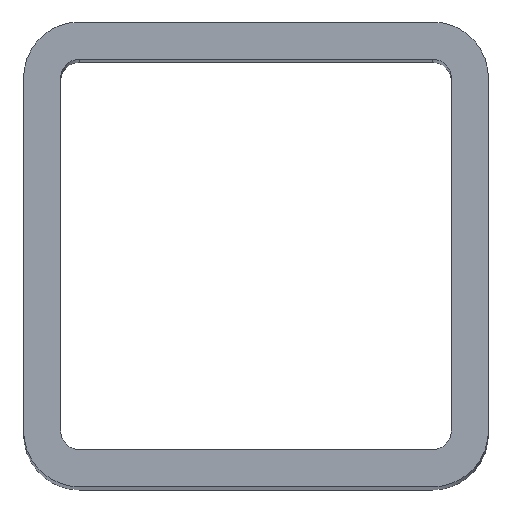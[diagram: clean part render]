
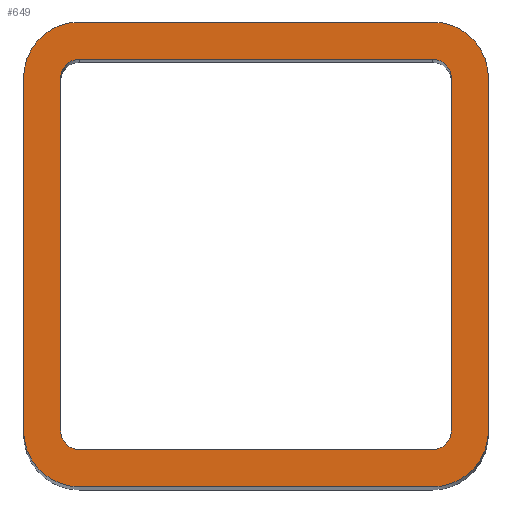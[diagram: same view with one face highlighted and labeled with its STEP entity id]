
A CAD part, top view. The second image highlights one B-rep face of the part: STEP entity #649.
In plain terms, the highlighted planar face has unit normal (0, 0, 1).
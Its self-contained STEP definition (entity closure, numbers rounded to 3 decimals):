
#3 = AXIS2_PLACEMENT_3D ( 'NONE', #189, #29, #535 ) ;
#4 = LINE ( 'NONE', #456, #489 ) ;
#5 = VERTEX_POINT ( 'NONE', #138 ) ;
#12 = ORIENTED_EDGE ( 'NONE', *, *, #607, .T. ) ;
#16 = EDGE_CURVE ( 'NONE', #264, #196, #422, .T. ) ;
#18 = DIRECTION ( 'NONE',  ( 1., 0., 0. ) ) ;
#21 = DIRECTION ( 'NONE',  ( 0., 0., 1. ) ) ;
#26 = CARTESIAN_POINT ( 'NONE',  ( 12.484, 9.516, 100. ) ) ;
#29 = DIRECTION ( 'NONE',  ( 0., 0., 1. ) ) ;
#37 = CARTESIAN_POINT ( 'NONE',  ( 9.484, 9.516, 100. ) ) ;
#38 = DIRECTION ( 'NONE',  ( -1., 0., 0. ) ) ;
#39 = DIRECTION ( 'NONE',  ( 0., 0., 1. ) ) ;
#46 = FACE_OUTER_BOUND ( 'NONE', #433, .T. ) ;
#55 = AXIS2_PLACEMENT_3D ( 'NONE', #319, #21, #275 ) ;
#58 = VECTOR ( 'NONE', #418, 1000. ) ;
#60 = ORIENTED_EDGE ( 'NONE', *, *, #251, .F. ) ;
#68 = VERTEX_POINT ( 'NONE', #249 ) ;
#71 = CIRCLE ( 'NONE', #496, 1. ) ;
#75 = EDGE_CURVE ( 'NONE', #68, #395, #397, .T. ) ;
#80 = EDGE_CURVE ( 'NONE', #652, #68, #206, .T. ) ;
#82 = DIRECTION ( 'NONE',  ( -1., 0., 0. ) ) ;
#86 = DIRECTION ( 'NONE',  ( 0., 0., 1. ) ) ;
#87 = ORIENTED_EDGE ( 'NONE', *, *, #556, .F. ) ;
#96 = VECTOR ( 'NONE', #365, 1000. ) ;
#101 = CARTESIAN_POINT ( 'NONE',  ( -12.516, -9.484, 100. ) ) ;
#116 = EDGE_CURVE ( 'NONE', #503, #471, #118, .T. ) ;
#117 = EDGE_CURVE ( 'NONE', #5, #253, #366, .T. ) ;
#118 = LINE ( 'NONE', #473, #58 ) ;
#124 = CARTESIAN_POINT ( 'NONE',  ( -9.516, -12.484, 100. ) ) ;
#126 = ORIENTED_EDGE ( 'NONE', *, *, #372, .T. ) ;
#129 = LINE ( 'NONE', #240, #204 ) ;
#130 = CARTESIAN_POINT ( 'NONE',  ( -12.516, 9.516, 100. ) ) ;
#133 = VERTEX_POINT ( 'NONE', #276 ) ;
#138 = CARTESIAN_POINT ( 'NONE',  ( 12.484, -9.484, 100. ) ) ;
#139 = PLANE ( 'NONE',  #55 ) ;
#141 = DIRECTION ( 'NONE',  ( 0., -1., 0. ) ) ;
#144 = EDGE_CURVE ( 'NONE', #253, #503, #193, .T. ) ;
#153 = LINE ( 'NONE', #617, #615 ) ;
#161 = FACE_BOUND ( 'NONE', #336, .T. ) ;
#162 = CARTESIAN_POINT ( 'NONE',  ( -9.516, -12.484, 100. ) ) ;
#176 = CARTESIAN_POINT ( 'NONE',  ( -12.516, -9.484, 100. ) ) ;
#189 = CARTESIAN_POINT ( 'NONE',  ( 9.484, -9.484, 100. ) ) ;
#193 = CIRCLE ( 'NONE', #351, 3. ) ;
#196 = VERTEX_POINT ( 'NONE', #426 ) ;
#203 = CARTESIAN_POINT ( 'NONE',  ( 9.484, -10.484, 100. ) ) ;
#204 = VECTOR ( 'NONE', #525, 1000. ) ;
#206 = LINE ( 'NONE', #640, #577 ) ;
#212 = EDGE_CURVE ( 'NONE', #636, #652, #389, .T. ) ;
#219 = EDGE_CURVE ( 'NONE', #469, #613, #592, .T. ) ;
#228 = LINE ( 'NONE', #162, #502 ) ;
#237 = CIRCLE ( 'NONE', #295, 3. ) ;
#240 = CARTESIAN_POINT ( 'NONE',  ( -9.516, -10.484, 100. ) ) ;
#249 = CARTESIAN_POINT ( 'NONE',  ( -9.516, 10.516, 100. ) ) ;
#251 = EDGE_CURVE ( 'NONE', #133, #255, #71, .T. ) ;
#253 = VERTEX_POINT ( 'NONE', #497 ) ;
#254 = ORIENTED_EDGE ( 'NONE', *, *, #507, .T. ) ;
#255 = VERTEX_POINT ( 'NONE', #298 ) ;
#264 = VERTEX_POINT ( 'NONE', #203 ) ;
#265 = DIRECTION ( 'NONE',  ( 0., 1., 0. ) ) ;
#270 = DIRECTION ( 'NONE',  ( 0., 0., 1. ) ) ;
#271 = CARTESIAN_POINT ( 'NONE',  ( -9.516, 9.516, 100. ) ) ;
#275 = DIRECTION ( 'NONE',  ( 1., 0., 0. ) ) ;
#276 = CARTESIAN_POINT ( 'NONE',  ( -10.516, -9.484, 100. ) ) ;
#295 = AXIS2_PLACEMENT_3D ( 'NONE', #461, #86, #621 ) ;
#298 = CARTESIAN_POINT ( 'NONE',  ( -9.516, -10.484, 100. ) ) ;
#309 = ORIENTED_EDGE ( 'NONE', *, *, #482, .F. ) ;
#313 = CARTESIAN_POINT ( 'NONE',  ( -10.516, 9.516, 100. ) ) ;
#319 = CARTESIAN_POINT ( 'NONE',  ( 9.484, -9.484, 100. ) ) ;
#322 = DIRECTION ( 'NONE',  ( -1., 0., 0. ) ) ;
#324 = CARTESIAN_POINT ( 'NONE',  ( 9.484, 12.516, 100. ) ) ;
#326 = DIRECTION ( 'NONE',  ( 0., 0., 1. ) ) ;
#328 = ORIENTED_EDGE ( 'NONE', *, *, #144, .T. ) ;
#330 = CARTESIAN_POINT ( 'NONE',  ( 9.484, 10.516, 100. ) ) ;
#336 = EDGE_LOOP ( 'NONE', ( #511, #512, #309, #362, #579, #60, #87, #412 ) ) ;
#340 = DIRECTION ( 'NONE',  ( -1., 0., 0. ) ) ;
#349 = DIRECTION ( 'NONE',  ( -1., 0., 0. ) ) ;
#351 = AXIS2_PLACEMENT_3D ( 'NONE', #526, #270, #82 ) ;
#362 = ORIENTED_EDGE ( 'NONE', *, *, #16, .F. ) ;
#365 = DIRECTION ( 'NONE',  ( 0., 1., 0. ) ) ;
#366 = LINE ( 'NONE', #26, #96 ) ;
#367 = DIRECTION ( 'NONE',  ( 0., 0., 1. ) ) ;
#370 = AXIS2_PLACEMENT_3D ( 'NONE', #37, #39, #429 ) ;
#372 = EDGE_CURVE ( 'NONE', #445, #403, #228, .T. ) ;
#389 = CIRCLE ( 'NONE', #370, 1. ) ;
#392 = AXIS2_PLACEMENT_3D ( 'NONE', #271, #367, #322 ) ;
#393 = CIRCLE ( 'NONE', #392, 3. ) ;
#395 = VERTEX_POINT ( 'NONE', #313 ) ;
#396 = DIRECTION ( 'NONE',  ( 0., 0., 1. ) ) ;
#397 = CIRCLE ( 'NONE', #551, 1. ) ;
#403 = VERTEX_POINT ( 'NONE', #563 ) ;
#412 = ORIENTED_EDGE ( 'NONE', *, *, #75, .F. ) ;
#418 = DIRECTION ( 'NONE',  ( -1., 0., 0. ) ) ;
#422 = CIRCLE ( 'NONE', #3, 1. ) ;
#425 = AXIS2_PLACEMENT_3D ( 'NONE', #581, #326, #476 ) ;
#426 = CARTESIAN_POINT ( 'NONE',  ( 10.484, -9.484, 100. ) ) ;
#429 = DIRECTION ( 'NONE',  ( -1., 0., 0. ) ) ;
#432 = DIRECTION ( 'NONE',  ( 0., -1., 0. ) ) ;
#433 = EDGE_LOOP ( 'NONE', ( #499, #624, #328, #553, #254, #444, #12, #126 ) ) ;
#444 = ORIENTED_EDGE ( 'NONE', *, *, #219, .T. ) ;
#445 = VERTEX_POINT ( 'NONE', #124 ) ;
#456 = CARTESIAN_POINT ( 'NONE',  ( 10.484, -9.484, 100. ) ) ;
#458 = CARTESIAN_POINT ( 'NONE',  ( -9.516, 12.516, 100. ) ) ;
#461 = CARTESIAN_POINT ( 'NONE',  ( -9.516, -9.484, 100. ) ) ;
#469 = VERTEX_POINT ( 'NONE', #130 ) ;
#471 = VERTEX_POINT ( 'NONE', #458 ) ;
#473 = CARTESIAN_POINT ( 'NONE',  ( -9.516, 12.516, 100. ) ) ;
#476 = DIRECTION ( 'NONE',  ( 1., 0., 0. ) ) ;
#482 = EDGE_CURVE ( 'NONE', #196, #636, #4, .T. ) ;
#489 = VECTOR ( 'NONE', #265, 1000. ) ;
#493 = CARTESIAN_POINT ( 'NONE',  ( -9.516, -9.484, 100. ) ) ;
#496 = AXIS2_PLACEMENT_3D ( 'NONE', #493, #396, #349 ) ;
#497 = CARTESIAN_POINT ( 'NONE',  ( 12.484, 9.516, 100. ) ) ;
#499 = ORIENTED_EDGE ( 'NONE', *, *, #517, .T. ) ;
#501 = CIRCLE ( 'NONE', #425, 3. ) ;
#502 = VECTOR ( 'NONE', #18, 1000. ) ;
#503 = VERTEX_POINT ( 'NONE', #324 ) ;
#507 = EDGE_CURVE ( 'NONE', #471, #469, #393, .T. ) ;
#511 = ORIENTED_EDGE ( 'NONE', *, *, #80, .F. ) ;
#512 = ORIENTED_EDGE ( 'NONE', *, *, #212, .F. ) ;
#517 = EDGE_CURVE ( 'NONE', #403, #5, #501, .T. ) ;
#523 = CARTESIAN_POINT ( 'NONE',  ( 10.484, 9.516, 100. ) ) ;
#525 = DIRECTION ( 'NONE',  ( 1., 0., 0. ) ) ;
#526 = CARTESIAN_POINT ( 'NONE',  ( 9.484, 9.516, 100. ) ) ;
#535 = DIRECTION ( 'NONE',  ( 1., 0., 0. ) ) ;
#551 = AXIS2_PLACEMENT_3D ( 'NONE', #644, #591, #340 ) ;
#553 = ORIENTED_EDGE ( 'NONE', *, *, #116, .T. ) ;
#556 = EDGE_CURVE ( 'NONE', #395, #133, #153, .T. ) ;
#563 = CARTESIAN_POINT ( 'NONE',  ( 9.484, -12.484, 100. ) ) ;
#577 = VECTOR ( 'NONE', #38, 1000. ) ;
#579 = ORIENTED_EDGE ( 'NONE', *, *, #596, .F. ) ;
#581 = CARTESIAN_POINT ( 'NONE',  ( 9.484, -9.484, 100. ) ) ;
#591 = DIRECTION ( 'NONE',  ( 0., 0., 1. ) ) ;
#592 = LINE ( 'NONE', #101, #642 ) ;
#596 = EDGE_CURVE ( 'NONE', #255, #264, #129, .T. ) ;
#607 = EDGE_CURVE ( 'NONE', #613, #445, #237, .T. ) ;
#613 = VERTEX_POINT ( 'NONE', #176 ) ;
#615 = VECTOR ( 'NONE', #141, 1000. ) ;
#617 = CARTESIAN_POINT ( 'NONE',  ( -10.516, -9.484, 100. ) ) ;
#621 = DIRECTION ( 'NONE',  ( -1., 0., 0. ) ) ;
#624 = ORIENTED_EDGE ( 'NONE', *, *, #117, .T. ) ;
#636 = VERTEX_POINT ( 'NONE', #523 ) ;
#640 = CARTESIAN_POINT ( 'NONE',  ( -9.516, 10.516, 100. ) ) ;
#642 = VECTOR ( 'NONE', #432, 1000. ) ;
#644 = CARTESIAN_POINT ( 'NONE',  ( -9.516, 9.516, 100. ) ) ;
#649 = ADVANCED_FACE ( 'NONE', ( #46, #161 ), #139, .T. ) ;
#652 = VERTEX_POINT ( 'NONE', #330 ) ;
